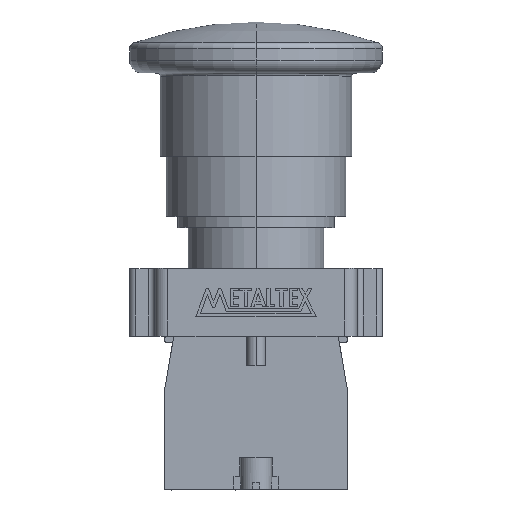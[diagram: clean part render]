
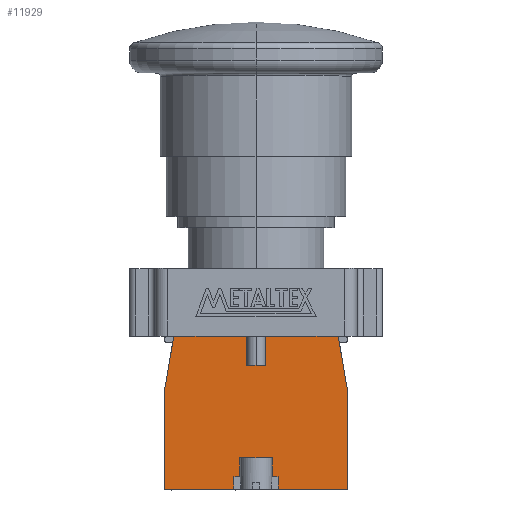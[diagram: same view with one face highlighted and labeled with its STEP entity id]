
A CAD part, top view. The second image highlights one B-rep face of the part: STEP entity #11929.
In plain terms, the highlighted planar face has unit normal (0, 0, 1).
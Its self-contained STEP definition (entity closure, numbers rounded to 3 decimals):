
#1230 = ORIENTED_EDGE ( 'NONE', *, *, #11653, .T. ) ;
#1231 = ORIENTED_EDGE ( 'NONE', *, *, #11654, .T. ) ;
#1232 = ORIENTED_EDGE ( 'NONE', *, *, #11543, .T. ) ;
#1233 = ORIENTED_EDGE ( 'NONE', *, *, #11492, .T. ) ;
#1234 = ORIENTED_EDGE ( 'NONE', *, *, #11611, .T. ) ;
#1235 = ORIENTED_EDGE ( 'NONE', *, *, #11655, .T. ) ;
#1236 = ORIENTED_EDGE ( 'NONE', *, *, #11657, .T. ) ;
#1237 = ORIENTED_EDGE ( 'NONE', *, *, #11656, .T. ) ;
#1238 = ORIENTED_EDGE ( 'NONE', *, *, #11530, .F. ) ;
#1239 = ORIENTED_EDGE ( 'NONE', *, *, #11658, .F. ) ;
#1240 = ORIENTED_EDGE ( 'NONE', *, *, #11660, .F. ) ;
#1241 = ORIENTED_EDGE ( 'NONE', *, *, #11659, .T. ) ;
#1242 = ORIENTED_EDGE ( 'NONE', *, *, #11608, .T. ) ;
#1243 = ORIENTED_EDGE ( 'NONE', *, *, #11485, .T. ) ;
#1244 = ORIENTED_EDGE ( 'NONE', *, *, #11649, .T. ) ;
#1245 = ORIENTED_EDGE ( 'NONE', *, *, #11496, .T. ) ;
#1246 = ORIENTED_EDGE ( 'NONE', *, *, #11661, .F. ) ;
#1248 = ORIENTED_EDGE ( 'NONE', *, *, #11536, .T. ) ;
#1614 = EDGE_LOOP ( 'NONE', ( #1231, #1233, #1230, #1232, #1234, #1235, #1237, #1236, #1238, #1239, #1241, #1240, #1242, #1244, #1243, #1245, #1246, #1248 ) ) ;
#1867 = FACE_OUTER_BOUND ( 'NONE', #1614, .T. ) ;
#1869 = AXIS2_PLACEMENT_3D ( 'NONE', #9796, #9797, #9798 ) ;
#2846 = VERTEX_POINT ( 'NONE', #8083 ) ;
#2847 = VERTEX_POINT ( 'NONE', #8084 ) ;
#2848 = VERTEX_POINT ( 'NONE', #8085 ) ;
#2849 = VERTEX_POINT ( 'NONE', #8086 ) ;
#3112 = VERTEX_POINT ( 'NONE', #4735 ) ;
#3113 = VERTEX_POINT ( 'NONE', #4736 ) ;
#3116 = VERTEX_POINT ( 'NONE', #4739 ) ;
#3117 = VERTEX_POINT ( 'NONE', #4740 ) ;
#3119 = VERTEX_POINT ( 'NONE', #4742 ) ;
#3140 = VERTEX_POINT ( 'NONE', #4763 ) ;
#3141 = VERTEX_POINT ( 'NONE', #4764 ) ;
#3144 = VERTEX_POINT ( 'NONE', #4767 ) ;
#3146 = VERTEX_POINT ( 'NONE', #4769 ) ;
#3153 = VERTEX_POINT ( 'NONE', #4776 ) ;
#3154 = VERTEX_POINT ( 'NONE', #4777 ) ;
#3212 = VERTEX_POINT ( 'NONE', #4835 ) ;
#3213 = VERTEX_POINT ( 'NONE', #4836 ) ;
#3216 = VERTEX_POINT ( 'NONE', #4839 ) ;
#4735 = CARTESIAN_POINT ( 'NONE',  ( 13., 24.2, 7.45 ) ) ;
#4736 = CARTESIAN_POINT ( 'NONE',  ( 14.5, 15.5, 7.45 ) ) ;
#4739 = CARTESIAN_POINT ( 'NONE',  ( -13., 24.2, 7.45 ) ) ;
#4740 = CARTESIAN_POINT ( 'NONE',  ( -1.5, 24.2, 7.45 ) ) ;
#4742 = CARTESIAN_POINT ( 'NONE',  ( 1.5, 24.2, 7.45 ) ) ;
#4763 = CARTESIAN_POINT ( 'NONE',  ( 2.6, 5., 7.45 ) ) ;
#4764 = CARTESIAN_POINT ( 'NONE',  ( -2.6, 5., 7.45 ) ) ;
#4767 = CARTESIAN_POINT ( 'NONE',  ( 1.5, 19.6, 7.45 ) ) ;
#4769 = CARTESIAN_POINT ( 'NONE',  ( -1.5, 19.6, 7.45 ) ) ;
#4776 = CARTESIAN_POINT ( 'NONE',  ( -14.5, 0., 7.45 ) ) ;
#4777 = CARTESIAN_POINT ( 'NONE',  ( -14.5, 15.5, 7.45 ) ) ;
#4835 = CARTESIAN_POINT ( 'NONE',  ( 3.5, 0., 7.45 ) ) ;
#4836 = CARTESIAN_POINT ( 'NONE',  ( 14.5, 0., 7.45 ) ) ;
#4839 = CARTESIAN_POINT ( 'NONE',  ( -3.5, 0., 7.45 ) ) ;
#5389 = LINE ( 'NONE', #5390, #8577 ) ;
#5390 = CARTESIAN_POINT ( 'NONE',  ( 14.5, 15.5, 7.45 ) ) ;
#5391 = DIRECTION ( 'NONE',  ( -0.17, 0.985, 0. ) ) ;
#5410 = LINE ( 'NONE', #5411, #8585 ) ;
#5411 = CARTESIAN_POINT ( 'NONE',  ( 13., 24.2, 7.45 ) ) ;
#5412 = DIRECTION ( 'NONE',  ( -1., 0., 0. ) ) ;
#5422 = LINE ( 'NONE', #5423, #8586 ) ;
#5423 = CARTESIAN_POINT ( 'NONE',  ( 13., 24.2, 7.45 ) ) ;
#5424 = DIRECTION ( 'NONE',  ( -1., 0., 0. ) ) ;
#5524 = LINE ( 'NONE', #5525, #8328 ) ;
#5525 = CARTESIAN_POINT ( 'NONE',  ( 0., 5., 7.45 ) ) ;
#5526 = DIRECTION ( 'NONE',  ( -1., 0., 0. ) ) ;
#5542 = LINE ( 'NONE', #5543, #8322 ) ;
#5543 = CARTESIAN_POINT ( 'NONE',  ( 0., 19.6, 7.45 ) ) ;
#5544 = DIRECTION ( 'NONE',  ( -1., 0., 0. ) ) ;
#5563 = LINE ( 'NONE', #5564, #8604 ) ;
#5564 = CARTESIAN_POINT ( 'NONE',  ( -14.5, 15.5, 7.45 ) ) ;
#5565 = DIRECTION ( 'NONE',  ( 0., -1., 0. ) ) ;
#5978 = LINE ( 'NONE', #5979, #8668 ) ;
#5979 = CARTESIAN_POINT ( 'NONE',  ( -14.5, 0., 7.45 ) ) ;
#5980 = DIRECTION ( 'NONE',  ( 1., 0., 0. ) ) ;
#5987 = LINE ( 'NONE', #5988, #8674 ) ;
#5988 = CARTESIAN_POINT ( 'NONE',  ( -14.5, 0., 7.45 ) ) ;
#5989 = DIRECTION ( 'NONE',  ( 1., 0., 0. ) ) ;
#6101 = LINE ( 'NONE', #6102, #8132 ) ;
#6102 = CARTESIAN_POINT ( 'NONE',  ( 14.5, 0., 7.45 ) ) ;
#6103 = DIRECTION ( 'NONE',  ( 0., 1., 0. ) ) ;
#6113 = LINE ( 'NONE', #6114, #8142 ) ;
#6114 = CARTESIAN_POINT ( 'NONE',  ( -13., 24.2, 7.45 ) ) ;
#6115 = DIRECTION ( 'NONE',  ( -0.17, -0.985, 0. ) ) ;
#6116 = LINE ( 'NONE', #6117, #8143 ) ;
#6117 = CARTESIAN_POINT ( 'NONE',  ( -1.5, 19.6, 7.45 ) ) ;
#6118 = DIRECTION ( 'NONE',  ( 0., 1., 0. ) ) ;
#6119 = LINE ( 'NONE', #6120, #8144 ) ;
#6120 = CARTESIAN_POINT ( 'NONE',  ( -3.5, 0., 7.45 ) ) ;
#6121 = DIRECTION ( 'NONE',  ( 0., 1., 0. ) ) ;
#6122 = LINE ( 'NONE', #6123, #8145 ) ;
#6123 = CARTESIAN_POINT ( 'NONE',  ( 0., 2., 7.45 ) ) ;
#6124 = DIRECTION ( 'NONE',  ( 1., 0., 0. ) ) ;
#6125 = LINE ( 'NONE', #6126, #8146 ) ;
#6126 = CARTESIAN_POINT ( 'NONE',  ( -2.6, 0., 7.45 ) ) ;
#6127 = DIRECTION ( 'NONE',  ( 0., 1., 0. ) ) ;
#6128 = LINE ( 'NONE', #6129, #8147 ) ;
#6129 = CARTESIAN_POINT ( 'NONE',  ( 2.6, 0., 7.45 ) ) ;
#6130 = DIRECTION ( 'NONE',  ( 0., 1., 0. ) ) ;
#6131 = LINE ( 'NONE', #6132, #8148 ) ;
#6132 = CARTESIAN_POINT ( 'NONE',  ( 0., 2., 7.45 ) ) ;
#6133 = DIRECTION ( 'NONE',  ( 1., 0., 0. ) ) ;
#6134 = LINE ( 'NONE', #6135, #8149 ) ;
#6135 = CARTESIAN_POINT ( 'NONE',  ( 3.5, 0., 7.45 ) ) ;
#6136 = DIRECTION ( 'NONE',  ( 0., 1., 0. ) ) ;
#6137 = LINE ( 'NONE', #6138, #8150 ) ;
#6138 = CARTESIAN_POINT ( 'NONE',  ( 1.5, 19.6, 7.45 ) ) ;
#6139 = DIRECTION ( 'NONE',  ( 0., 1., 0. ) ) ;
#8083 = CARTESIAN_POINT ( 'NONE',  ( -2.6, 2., 7.45 ) ) ;
#8084 = CARTESIAN_POINT ( 'NONE',  ( -3.5, 2., 7.45 ) ) ;
#8085 = CARTESIAN_POINT ( 'NONE',  ( 3.5, 2., 7.45 ) ) ;
#8086 = CARTESIAN_POINT ( 'NONE',  ( 2.6, 2., 7.45 ) ) ;
#8132 = VECTOR ( 'NONE', #6103, 1000. ) ;
#8142 = VECTOR ( 'NONE', #6115, 1000. ) ;
#8143 = VECTOR ( 'NONE', #6118, 1000. ) ;
#8144 = VECTOR ( 'NONE', #6121, 1000. ) ;
#8145 = VECTOR ( 'NONE', #6124, 1000. ) ;
#8146 = VECTOR ( 'NONE', #6127, 1000. ) ;
#8147 = VECTOR ( 'NONE', #6130, 1000. ) ;
#8148 = VECTOR ( 'NONE', #6133, 1000. ) ;
#8149 = VECTOR ( 'NONE', #6136, 1000. ) ;
#8150 = VECTOR ( 'NONE', #6139, 1000. ) ;
#8322 = VECTOR ( 'NONE', #5544, 1000. ) ;
#8328 = VECTOR ( 'NONE', #5526, 1000. ) ;
#8577 = VECTOR ( 'NONE', #5391, 1000. ) ;
#8585 = VECTOR ( 'NONE', #5412, 1000. ) ;
#8586 = VECTOR ( 'NONE', #5424, 1000. ) ;
#8604 = VECTOR ( 'NONE', #5565, 1000. ) ;
#8668 = VECTOR ( 'NONE', #5980, 1000. ) ;
#8674 = VECTOR ( 'NONE', #5989, 1000. ) ;
#9795 = PLANE ( 'NONE',  #1869 ) ;
#9796 = CARTESIAN_POINT ( 'NONE',  ( 0., 0., 7.45 ) ) ;
#9797 = DIRECTION ( 'NONE',  ( 0., 0., 1. ) ) ;
#9798 = DIRECTION ( 'NONE',  ( 1., 0., 0. ) ) ;
#11485 = EDGE_CURVE ( 'NONE', #3113, #3112, #5389, .T. ) ;
#11492 = EDGE_CURVE ( 'NONE', #3117, #3116, #5410, .T. ) ;
#11496 = EDGE_CURVE ( 'NONE', #3112, #3119, #5422, .T. ) ;
#11530 = EDGE_CURVE ( 'NONE', #3140, #3141, #5524, .T. ) ;
#11536 = EDGE_CURVE ( 'NONE', #3144, #3146, #5542, .T. ) ;
#11543 = EDGE_CURVE ( 'NONE', #3154, #3153, #5563, .T. ) ;
#11608 = EDGE_CURVE ( 'NONE', #3212, #3213, #5978, .T. ) ;
#11611 = EDGE_CURVE ( 'NONE', #3153, #3216, #5987, .T. ) ;
#11649 = EDGE_CURVE ( 'NONE', #3213, #3113, #6101, .T. ) ;
#11653 = EDGE_CURVE ( 'NONE', #3116, #3154, #6113, .T. ) ;
#11654 = EDGE_CURVE ( 'NONE', #3146, #3117, #6116, .T. ) ;
#11655 = EDGE_CURVE ( 'NONE', #3216, #2847, #6119, .T. ) ;
#11656 = EDGE_CURVE ( 'NONE', #2847, #2846, #6122, .T. ) ;
#11657 = EDGE_CURVE ( 'NONE', #2846, #3141, #6125, .T. ) ;
#11658 = EDGE_CURVE ( 'NONE', #2849, #3140, #6128, .T. ) ;
#11659 = EDGE_CURVE ( 'NONE', #2849, #2848, #6131, .T. ) ;
#11660 = EDGE_CURVE ( 'NONE', #3212, #2848, #6134, .T. ) ;
#11661 = EDGE_CURVE ( 'NONE', #3144, #3119, #6137, .T. ) ;
#11929 = ADVANCED_FACE ( 'NONE', ( #1867 ), #9795, .T. ) ;
